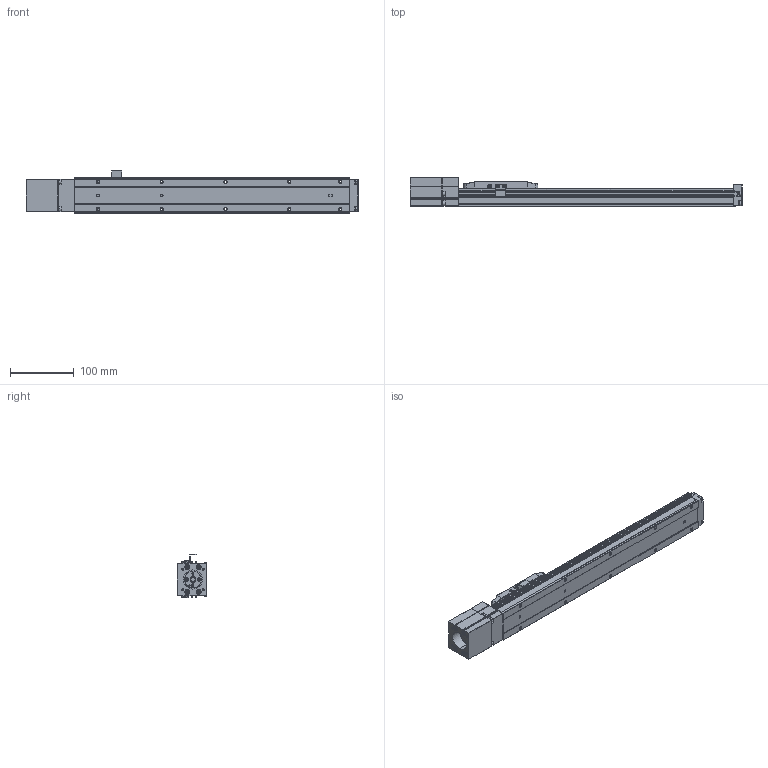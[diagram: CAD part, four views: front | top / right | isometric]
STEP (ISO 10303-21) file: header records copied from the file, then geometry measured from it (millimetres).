
FILE_DESCRIPTION (( 'STEP AP203' ), '1' );
FILE_NAME ('EFS-05E_MY.STEP', '2025-07-17T06:13:54', ( '' ), ( '' ), 'SwSTEP 2.0', 'SolidWorks 2024', '' );
FILE_SCHEMA (( 'CONFIG_CONTROL_DESIGN' ));
Products named in the file (1): EFS-05E_MY
Bounding box: 521 x 46 x 69 mm (x, y, z)
Volume: 817331.5 mm3; surface area: 172086.4 mm2
Topology: 25 solids, 29 shells, 1748 faces, 4387 edges, 2729 vertices
Faces by surface type: plane 709, cylinder 676, cone 202, torus 100, bspline 35, sphere 26
Entity records: 55089 total; most frequent: CARTESIAN_POINT 13401, DIRECTION 8812, ORIENTED_EDGE 8654, EDGE_CURVE 4327, AXIS2_PLACEMENT_3D 3247, VERTEX_POINT 2729, VECTOR 2318, LINE 2318
